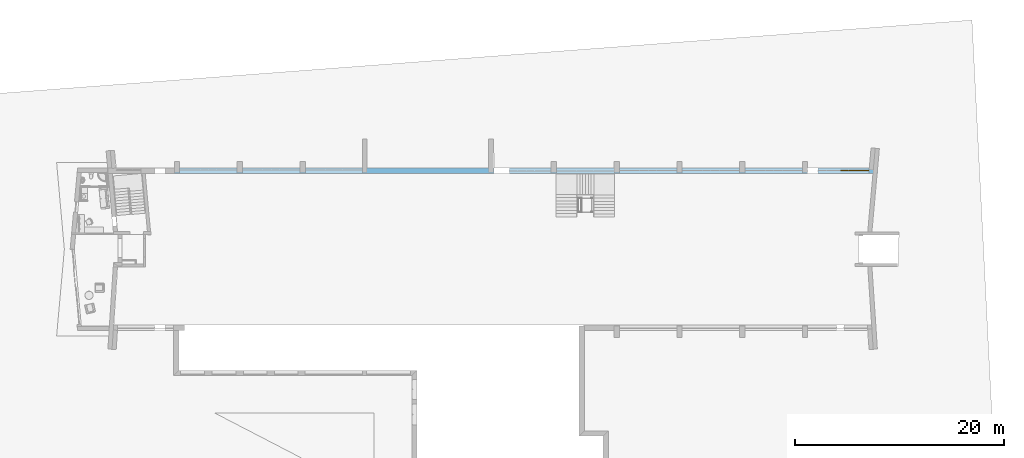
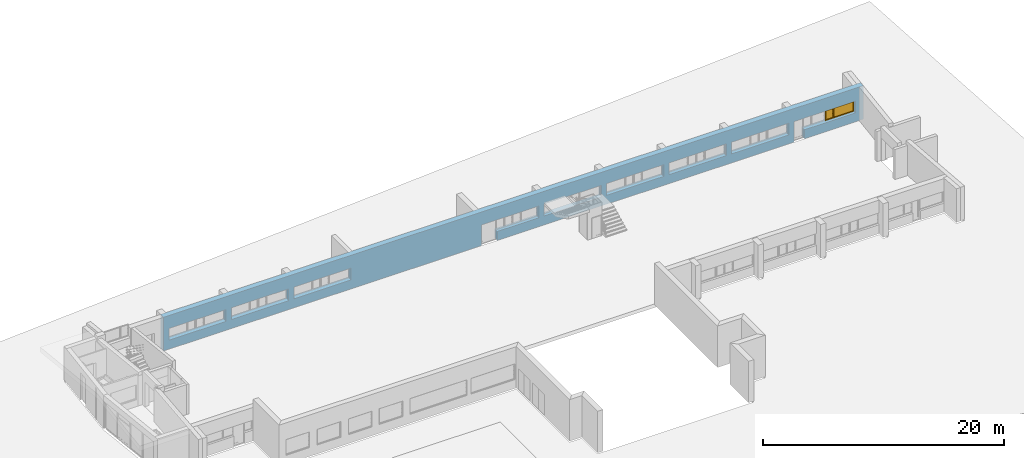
# One storey, part 9 of 36: 1 window, 20 openings, plus 1 element that does not belong to this part.
"""IFC2X3 building model written with IfcOpenShell, lengths in millimetres."""

import ifcopenshell
import ifcopenshell.guid

model = None  # the IFC model being written
_history = None  # IfcOwnerHistory: only IFC2X3 demands one
_inside = {}  # id of a spatial element -> (the spatial element, [elements in it])
_under = {}  # id of a project, library or spatial element -> (it, [spatial elements below it])
_declared = {}  # id of a project -> (the project, [libraries it declares])
_typed = {}  # id of a type object -> (the type object, [elements of that type])
_made_of = {}  # id of a material, layer set ... -> (it, [elements and type objects made of it])


def new_model(schema):
    """Start an empty IFC model of exactly this schema.

    Asked for "IFC4X3", IfcOpenShell would pick the latest addendum, in which some entities
    have other attributes; the version numbers below select the first issue.
    IFC2X3 requires an IfcOwnerHistory on every rooted entity: one is made here for all.
    """
    global model, _history
    if schema == "IFC4X3":
        model = ifcopenshell.file(schema_version=(4, 3, 0, 0))
    else:
        model = ifcopenshell.file(schema=schema)
    _inside.clear()
    _under.clear()
    _declared.clear()
    _typed.clear()
    _made_of.clear()
    _history = None
    if model.schema == "IFC2X3":
        org = make("IfcOrganization", Name="unknown")
        user = make(
            "IfcPersonAndOrganization",
            ThePerson=make("IfcPerson", FamilyName="unknown"),
            TheOrganization=org,
        )
        app = make(
            "IfcApplication",
            ApplicationDeveloper=org,
            Version="unknown",
            ApplicationFullName="unknown",
            ApplicationIdentifier="unknown",
        )
        _history = make(
            "IfcOwnerHistory",
            OwningUser=user,
            OwningApplication=app,
            ChangeAction="ADDED",
            CreationDate=0,
        )
    return model


def make(cls, **values):
    """One entity of the class cls with the attributes given. An attribute that is None is left unset."""
    return model.create_entity(
        cls, **{name: value for name, value in values.items() if value is not None}
    )


def entity(cls, *values):
    """Any entity or typed value of the class cls, its attributes in the order of the schema. None: left unset."""
    e = model.create_entity(cls)
    for i, value in enumerate(values):
        if value is not None:
            e[i] = value
    return e


def rooted(cls, **values):
    """An entity with a GlobalId (a new one), such as an element, a storey or a relation."""
    return make(cls, GlobalId=ifcopenshell.guid.new(), OwnerHistory=_history, **values)


def si_unit(unit_type, name, prefix=None):
    """IfcSIUnit, for example si_unit("LENGTHUNIT", "METRE", prefix="MILLI")."""
    return make("IfcSIUnit", UnitType=unit_type, Prefix=prefix, Name=name)


def converted_unit(unit_type, name, factor, base, dimensions=None, offset=None):
    """IfcConversionBasedUnit, such as the inch: factor (a typed value) times the base unit."""
    return make(
        "IfcConversionBasedUnit"
        if offset is None
        else "IfcConversionBasedUnitWithOffset",
        ConversionOffset=offset,
        Dimensions=None
        if dimensions is None
        else entity("IfcDimensionalExponents", *dimensions),
        UnitType=unit_type,
        Name=name,
        ConversionFactor=make(
            "IfcMeasureWithUnit", ValueComponent=factor, UnitComponent=base
        ),
    )


def money_unit(currency):
    """IfcMonetaryUnit."""
    return make("IfcMonetaryUnit", Currency=currency)


def assignment(units):
    """IfcUnitAssignment: the units of a project."""
    return None if units is None else make("IfcUnitAssignment", Units=units)


def point(xyz):
    """IfcCartesianPoint."""
    return None if xyz is None else make("IfcCartesianPoint", Coordinates=xyz)


def direction(xyz):
    """IfcDirection."""
    return None if xyz is None else make("IfcDirection", DirectionRatios=xyz)


def frame(location, z_axis=None, x_axis=None):
    """IfcAxis2Placement3D, a coordinate frame: its origin and axes. An axis left out is left unset."""
    return make(
        "IfcAxis2Placement3D",
        Location=point(location),
        Axis=direction(z_axis),
        RefDirection=direction(x_axis),
    )


def origin_with_axes():
    """The frame at (0, 0, 0) with the z axis (0, 0, 1) and the x axis (1, 0, 0) written out."""
    return frame((0.0, 0.0, 0.0), z_axis=(0.0, 0.0, 1.0), x_axis=(1.0, 0.0, 0.0))


def place(relative_to, where):
    """IfcLocalPlacement: puts the frame where relative to a parent placement (None: the world)."""
    return make(
        "IfcLocalPlacement", PlacementRelTo=relative_to, RelativePlacement=where
    )


def context(
    kind, dimensions, precision=None, world=None, true_north=None, identifier=None
):
    """IfcGeometricRepresentationContext, for example the 3D "Model" context."""
    return make(
        "IfcGeometricRepresentationContext",
        ContextIdentifier=identifier,
        ContextType=kind,
        CoordinateSpaceDimension=dimensions,
        Precision=precision,
        WorldCoordinateSystem=world,
        TrueNorth=true_north,
    )


def subcontext(parent, identifier, kind, view, scale=None):
    """IfcGeometricRepresentationSubContext, for example "Body" below "Model"."""
    return make(
        "IfcGeometricRepresentationSubContext",
        ContextIdentifier=identifier,
        ContextType=kind,
        ParentContext=parent,
        TargetScale=scale,
        TargetView=view,
    )


def project(units=None, contexts=None):
    """IfcProject with its units and contexts."""
    return rooted(
        "IfcProject",
        Name="project",
        RepresentationContexts=contexts,
        UnitsInContext=assignment(units),
    )


def spatial(cls, under=None, at=None, **own):
    """A site, building, storey or space (cls), placed at a placement, below another one or the project."""
    s = rooted(cls, ObjectPlacement=at, **own)
    if under is not None:
        _under.setdefault(under.id(), (under, []))[1].append(s)
    return s


def polyline(points):
    """IfcPolyline through the points."""
    return make("IfcPolyline", Points=[point(p) for p in points])


def outline(outer, holes=None, kind="AREA"):
    """IfcArbitraryClosedProfileDef: a profile drawn as a closed curve; with holes, ...WithVoids."""
    if holes is None:
        return make("IfcArbitraryClosedProfileDef", ProfileType=kind, OuterCurve=outer)
    return make(
        "IfcArbitraryProfileDefWithVoids",
        ProfileType=kind,
        OuterCurve=outer,
        InnerCurves=holes,
    )


def extrude(swept, where, along, depth):
    """IfcExtrudedAreaSolid: the profile swept, set in the frame where, extruded along a direction by depth."""
    return make(
        "IfcExtrudedAreaSolid",
        SweptArea=swept,
        Position=where,
        ExtrudedDirection=direction(along),
        Depth=depth,
    )


def faces_of(points, faces, orient=None, outer=None):
    """IfcFace entities. A face is a list of loops; a loop is a list of indices into points, from 0.

    orient and outer hold one flag for each loop. By default every Orientation is true, the
    first loop of a face is its IfcFaceOuterBound and the others are IfcFaceBound.
    """
    made = []
    for i, loops in enumerate(faces):
        bounds = []
        for j, loop in enumerate(loops):
            is_outer = j == 0 if outer is None else outer[i][j]
            bounds.append(
                make(
                    "IfcFaceOuterBound" if is_outer else "IfcFaceBound",
                    Bound=make("IfcPolyLoop", Polygon=[points[k] for k in loop]),
                    Orientation=True if orient is None else orient[i][j],
                )
            )
        made.append(make("IfcFace", Bounds=bounds))
    return made


def open_shell(faces, orient=None, outer=None):
    """The faces of one IfcOpenShell. surface_model builds it on its shared points."""
    return ("IfcOpenShell", faces, orient, outer)


def faceted_brep(points, faces, orient=None, outer=None, voids=None):
    """IfcFacetedBrep: a solid bounded by flat faces; with voids (closed shells), ...WithVoids."""
    shared = [point(p) for p in points]
    hull = make("IfcClosedShell", CfsFaces=faces_of(shared, faces, orient, outer))
    if voids is None:
        return make("IfcFacetedBrep", Outer=hull)
    return make(
        "IfcFacetedBrepWithVoids",
        Outer=hull,
        Voids=[
            make(cls, CfsFaces=faces_of(shared, fs, o, b)) for cls, fs, o, b in voids
        ],
    )


def surface_model(cls, points, shells):
    """IfcFaceBasedSurfaceModel or IfcShellBasedSurfaceModel (cls): surfaces that need not close."""
    shared = [point(p) for p in points]
    made = [make(c, CfsFaces=faces_of(shared, fs, o, b)) for c, fs, o, b in shells]
    if cls == "IfcFaceBasedSurfaceModel":
        return make(cls, FbsmFaces=made)
    return make(cls, SbsmBoundary=made)


def shape(context_of_items, identifier, shape_type, items):
    """IfcShapeRepresentation: the items that make up one representation, for example the "Body"."""
    return make(
        "IfcShapeRepresentation",
        ContextOfItems=context_of_items,
        RepresentationIdentifier=identifier,
        RepresentationType=shape_type,
        Items=items,
    )


def source(mapping_origin, context_of_items, identifier, shape_type, items):
    """IfcRepresentationMap: a shape defined once, which mapped items show again and again."""
    return make(
        "IfcRepresentationMap",
        MappingOrigin=mapping_origin,
        MappedRepresentation=shape(context_of_items, identifier, shape_type, items),
    )


def transform(
    local_origin,
    x_axis=None,
    y_axis=None,
    z_axis=None,
    scale=None,
    scale2=None,
    scale3=None,
    uniform=True,
):
    """IfcCartesianTransformationOperator3D, or its non-uniform kind. x_axis, y_axis, z_axis: its Axis1, 2, 3."""
    if uniform:
        return make(
            "IfcCartesianTransformationOperator3D",
            Axis1=direction(x_axis),
            Axis2=direction(y_axis),
            LocalOrigin=point(local_origin),
            Scale=scale,
            Axis3=direction(z_axis),
        )
    return make(
        "IfcCartesianTransformationOperator3DnonUniform",
        Axis1=direction(x_axis),
        Axis2=direction(y_axis),
        LocalOrigin=point(local_origin),
        Scale=scale,
        Axis3=direction(z_axis),
        Scale2=scale2,
        Scale3=scale3,
    )


def mapped(mapping_source, mapping_target):
    """IfcMappedItem: shows the shape of a source again, moved by a transform."""
    return make(
        "IfcMappedItem", MappingSource=mapping_source, MappingTarget=mapping_target
    )


def material(Name=None, Category=None):
    """IfcMaterial."""
    return make("IfcMaterial", Name=Name, Category=Category)


def material_list(materials):
    """IfcMaterialList."""
    return make("IfcMaterialList", Materials=materials)


def layer(
    of_material, thickness, ventilated=None, Name=None, Category=None, Priority=None
):
    """IfcMaterialLayer: one layer of a wall or slab, of a material (None: an air gap)."""
    return make(
        "IfcMaterialLayer",
        Material=of_material,
        LayerThickness=thickness,
        IsVentilated=ventilated,
        Name=Name,
        Category=Category,
        Priority=Priority,
    )


def layer_set(layers, Name=None):
    """IfcMaterialLayerSet."""
    return make("IfcMaterialLayerSet", MaterialLayers=layers, LayerSetName=Name)


def layer_usage(for_layer_set, set_direction, sense, offset, extent=None):
    """IfcMaterialLayerSetUsage: how a layer set lies in its element."""
    return make(
        "IfcMaterialLayerSetUsage",
        ForLayerSet=for_layer_set,
        LayerSetDirection=set_direction,
        DirectionSense=sense,
        OffsetFromReferenceLine=offset,
        ReferenceExtent=extent,
    )


def made_of(thing, what):
    """Note that an element or type object is made of a material, layer set ...; save() writes the relation."""
    if what is not None:
        _made_of.setdefault(what.id(), (what, []))[1].append(thing)
    return thing


def type_object(cls, material=None, **own):
    """A type object (cls), such as IfcWallType, which elements share."""
    return made_of(rooted(cls, **own), material)


def element(
    cls,
    number,
    at=None,
    inside=None,
    cuts=None,
    type_object=None,
    material=None,
    context=None,
    identifier="Body",
    shape_type=None,
    held_by="IfcProductDefinitionShape",
    body=None,
    shapes=None,
    **own,
):
    """One element of the class cls, such as IfcWall. Its Tag is "e" and its number.

    at: its placement. inside: the storey or other place that contains it. cuts: it is an
    opening in that element (IfcRelVoidsElement). A single representation is given by context,
    identifier, shape_type and body (its items); several are given by shapes. held_by: the class
    of the entity that holds the representations. save() writes the other relations.
    """
    e = rooted(cls, Tag="e%d" % number, ObjectPlacement=at, **own)
    if body is not None:
        shapes = [shape(context, identifier, shape_type, body)]
    if shapes is not None:
        e.Representation = make(held_by, Representations=shapes)
    if inside is not None:
        _inside.setdefault(inside.id(), (inside, []))[1].append(e)
    if cuts is not None:
        rooted(
            "IfcRelVoidsElement", RelatingBuildingElement=cuts, RelatedOpeningElement=e
        )
    if type_object is not None:
        _typed.setdefault(type_object.id(), (type_object, []))[1].append(e)
    return made_of(e, material)


def fill(opening, filler):
    """IfcRelFillsElement: the door or window that sits in an opening."""
    return rooted(
        "IfcRelFillsElement",
        RelatingOpeningElement=opening,
        RelatedBuildingElement=filler,
    )


def aggregate(whole, parts):
    """IfcRelAggregates: a whole, such as a stair, and the parts it consists of."""
    return rooted("IfcRelAggregates", RelatingObject=whole, RelatedObjects=parts)


def save(model, path):
    """Write the relations noted so far, then the file.

    IfcRelAggregates (storeys below a building ...), IfcRelContainedInSpatialStructure (elements
    in a storey), IfcRelDefinesByType, IfcRelAssociatesMaterial and IfcRelDeclares: one each for
    every whole, place, type object, material and project.
    """
    for whole, parts in _under.values():
        aggregate(whole, parts)
    for where, things in _inside.values():
        rooted(
            "IfcRelContainedInSpatialStructure",
            RelatedElements=things,
            RelatingStructure=where,
        )
    for kind, things in _typed.values():
        rooted("IfcRelDefinesByType", RelatedObjects=things, RelatingType=kind)
    for what, things in _made_of.values():
        rooted("IfcRelAssociatesMaterial", RelatedObjects=things, RelatingMaterial=what)
    for by, libraries in _declared.values():
        rooted("IfcRelDeclares", RelatingContext=by, RelatedDefinitions=libraries)
    model.write(path)


model = new_model("IFC2X3")

# Units and contexts
model_context = context("Model", 3, precision=1e-05, world=origin_with_axes(), true_north=direction((0.0, 1.0)))
body_context = subcontext(model_context, "Body", "Model", "MODEL_VIEW")
ifc_project = project(units=[si_unit("LENGTHUNIT", "METRE", prefix="MILLI"), si_unit("AREAUNIT", "SQUARE_METRE"), si_unit("VOLUMEUNIT", "CUBIC_METRE"), converted_unit("PLANEANGLEUNIT", "DEGREE", entity("IfcPlaneAngleMeasure", 0.0174532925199), si_unit("PLANEANGLEUNIT", "RADIAN"), dimensions=[0, 0, 0, 0, 0, 0, 0]), si_unit("SOLIDANGLEUNIT", "STERADIAN"), money_unit("USD"), converted_unit("TIMEUNIT", "Year", entity("IfcTimeMeasure", 31556926.0), si_unit("TIMEUNIT", "SECOND"), dimensions=[0, 0, 0, 0, 0, 0, 0]), si_unit("MASSUNIT", "GRAM"), si_unit("THERMODYNAMICTEMPERATUREUNIT", "DEGREE_CELSIUS"), si_unit("LUMINOUSINTENSITYUNIT", "LUMEN")], contexts=[model_context])

# Site, building, storey
site_placement = place(None, origin_with_axes())
site = spatial("IfcSite", under=ifc_project, at=site_placement, Name="Site", CompositionType="ELEMENT")
building_placement = place(site_placement, origin_with_axes())
building = spatial("IfcBuilding", under=site, at=building_placement, Name="Building", CompositionType="ELEMENT")
storey_placement = place(building_placement, frame((0.0, 0.0, -3400.0), z_axis=(0.0, 0.0, 1.0), x_axis=(1.0, 0.0, 0.0)))
storey = spatial("IfcBuildingStorey", under=building, at=storey_placement, Name="1KORRUS", CompositionType="ELEMENT", Elevation=-3400.0)

# Wall, openings, window
ifc_material_1 = material(Name="Olemasolevad seinad tellis, uus viimistlus")
ifc_layer = layer(ifc_material_1, 500.0, ventilated="UNKNOWN")
ifc_layer_set = layer_set([ifc_layer], Name="Olemasolevad seinad tellis, uus viimistlus 500")
ifc_layer_usage = layer_usage(ifc_layer_set, "AXIS2", "POSITIVE", -100.0)
wall_type = type_object("IfcWallType", Name="Olemasolevad seinad tellis, uus viimistlus 500", PredefinedType="NOTDEFINED")
wall_placement = place(storey_placement, frame((-48393.8274049, -5039.6041088, 0.0), z_axis=(0.0, 0.0, 1.0), x_axis=(1.0, 0.0, 0.0)))
wall = element("IfcWallStandardCase", 1, at=wall_placement, inside=storey, type_object=wall_type, material=ifc_layer_usage, Name="VS1", ObjectType="VS1", context=body_context, shape_type="SweptSolid", body=[
    extrude(outline(polyline([(0.0, -100.0), (67149.8194303, -100.0), (67149.8194303, 400.0), (0.0, 400.0), (0.0, -100.0)])), origin_with_axes(), (0.0, 0.0, 1.0), 3400.0),
])
opening_1_placement = place(wall_placement, frame((1878.53070154, 0.0, 900.0), z_axis=(0.0, 0.0, 1.0), x_axis=(1.0, 0.0, 0.0)))
element("IfcOpeningElement", 2, at=opening_1_placement, cuts=wall, Name="Olemasolevad aknad jäävad", context=body_context, shape_type="SweptSolid", body=[
    extrude(outline(polyline([(-1375.0, 1200.0), (-1375.0, 0.0), (1375.0, 0.0), (1375.0, 1200.0), (-1375.0, 1200.0)])), frame((0.0, 250.0, 0.0), z_axis=(0.0, -1.0, 0.0), x_axis=(1.0, 0.0, 0.0)), (0.0, 0.0, 1.0), 850.0),
    extrude(outline(polyline([(-1375.0, 0.0), (-1375.0, -1200.0), (1375.0, -1200.0), (1375.0, 0.0), (-1375.0, 0.0)])), frame((0.0, 250.0, 0.0), z_axis=(0.0, 1.0, 0.0), x_axis=(1.0, 0.0, 0.0)), (0.0, 0.0, 1.0), 650.0),
])
opening_2_placement = place(wall_placement, frame((7878.53070154, 0.0, 900.0), z_axis=(0.0, 0.0, 1.0), x_axis=(1.0, 0.0, 0.0)))
element("IfcOpeningElement", 3, at=opening_2_placement, cuts=wall, Name="Olemasolevad aknad jäävad", context=body_context, shape_type="SweptSolid", body=[
    extrude(outline(polyline([(-1375.0, 1200.0), (-1375.0, 0.0), (1375.0, 0.0), (1375.0, 1200.0), (-1375.0, 1200.0)])), frame((0.0, 250.0, 0.0), z_axis=(0.0, -1.0, 0.0), x_axis=(1.0, 0.0, 0.0)), (0.0, 0.0, 1.0), 850.0),
    extrude(outline(polyline([(-1375.0, 0.0), (-1375.0, -1200.0), (1375.0, -1200.0), (1375.0, 0.0), (-1375.0, 0.0)])), frame((0.0, 250.0, 0.0), z_axis=(0.0, 1.0, 0.0), x_axis=(1.0, 0.0, 0.0)), (0.0, 0.0, 1.0), 650.0),
])
opening_3_placement = place(wall_placement, frame((13878.5307015, 0.0, 900.0), z_axis=(0.0, 0.0, 1.0), x_axis=(1.0, 0.0, 0.0)))
element("IfcOpeningElement", 4, at=opening_3_placement, cuts=wall, Name="Olemasolevad aknad jäävad", context=body_context, shape_type="SweptSolid", body=[
    extrude(outline(polyline([(-1375.0, 1200.0), (-1375.0, 0.0), (1375.0, 0.0), (1375.0, 1200.0), (-1375.0, 1200.0)])), frame((0.0, 250.0, 0.0), z_axis=(0.0, -1.0, 0.0), x_axis=(1.0, 0.0, 0.0)), (0.0, 0.0, 1.0), 850.0),
    extrude(outline(polyline([(-1375.0, 0.0), (-1375.0, -1200.0), (1375.0, -1200.0), (1375.0, 0.0), (-1375.0, 0.0)])), frame((0.0, 250.0, 0.0), z_axis=(0.0, 1.0, 0.0), x_axis=(1.0, 0.0, 0.0)), (0.0, 0.0, 1.0), 650.0),
])
opening_4_placement = place(wall_placement, frame((4628.53070154, 0.0, 900.0), z_axis=(0.0, 0.0, 1.0), x_axis=(1.0, 0.0, 0.0)))
element("IfcOpeningElement", 5, at=opening_4_placement, cuts=wall, Name="Olemasolevad aknad jäävad", context=body_context, shape_type="SweptSolid", body=[
    extrude(outline(polyline([(1375.0, 1200.0), (-1375.0, 1200.0), (-1375.0, 0.0), (1375.0, 0.0), (1375.0, 1200.0)])), frame((0.0, 250.0, 0.0), z_axis=(0.0, -1.0, 0.0), x_axis=(1.0, 0.0, 0.0)), (0.0, 0.0, 1.0), 850.0),
    extrude(outline(polyline([(1375.0, 0.0), (-1375.0, 0.0), (-1375.0, -1200.0), (1375.0, -1200.0), (1375.0, 0.0)])), frame((0.0, 250.0, 0.0), z_axis=(0.0, 1.0, 0.0), x_axis=(1.0, 0.0, 0.0)), (0.0, 0.0, 1.0), 650.0),
])
opening_5_placement = place(wall_placement, frame((10628.5307015, 0.0, 900.0), z_axis=(0.0, 0.0, 1.0), x_axis=(1.0, 0.0, 0.0)))
element("IfcOpeningElement", 6, at=opening_5_placement, cuts=wall, Name="Olemasolevad aknad jäävad", context=body_context, shape_type="SweptSolid", body=[
    extrude(outline(polyline([(1375.0, 1200.0), (-1375.0, 1200.0), (-1375.0, 0.0), (1375.0, 0.0), (1375.0, 1200.0)])), frame((0.0, 250.0, 0.0), z_axis=(0.0, -1.0, 0.0), x_axis=(1.0, 0.0, 0.0)), (0.0, 0.0, 1.0), 850.0),
    extrude(outline(polyline([(1375.0, 0.0), (-1375.0, 0.0), (-1375.0, -1200.0), (1375.0, -1200.0), (1375.0, 0.0)])), frame((0.0, 250.0, 0.0), z_axis=(0.0, 1.0, 0.0), x_axis=(1.0, 0.0, 0.0)), (0.0, 0.0, 1.0), 650.0),
])
opening_6_placement = place(wall_placement, frame((16616.9651775, 0.0, 900.0), z_axis=(0.0, 0.0, 1.0), x_axis=(1.0, 0.0, 0.0)))
element("IfcOpeningElement", 7, at=opening_6_placement, cuts=wall, Name="Olemasolevad aknad jäävad", context=body_context, shape_type="SweptSolid", body=[
    extrude(outline(polyline([(1375.0, 1200.0), (-1375.0, 1200.0), (-1375.0, 0.0), (1375.0, 0.0), (1375.0, 1200.0)])), frame((0.0, 250.0, 0.0), z_axis=(0.0, -1.0, 0.0), x_axis=(1.0, 0.0, 0.0)), (0.0, 0.0, 1.0), 850.0),
    extrude(outline(polyline([(1375.0, 0.0), (-1375.0, 0.0), (-1375.0, -1200.0), (1375.0, -1200.0), (1375.0, 0.0)])), frame((0.0, 250.0, 0.0), z_axis=(0.0, 1.0, 0.0), x_axis=(1.0, 0.0, 0.0)), (0.0, 0.0, 1.0), 650.0),
])
opening_7_placement = place(wall_placement, frame((34803.5307015, 0.0, 900.0), z_axis=(0.0, 0.0, 1.0), x_axis=(1.0, 0.0, 0.0)))
element("IfcOpeningElement", 8, at=opening_7_placement, cuts=wall, Name="Olemasolevad aknad jäävad", context=body_context, shape_type="SweptSolid", body=[
    extrude(outline(polyline([(1200.0, 0.0), (-1200.0, 0.0), (-1200.0, -1200.0), (1200.0, -1200.0), (1200.0, 0.0)])), frame((0.0, 100.0, 0.0), z_axis=(0.0, 1.0, 0.0), x_axis=(1.0, 0.0, 0.0)), (0.0, 0.0, 1.0), 800.0),
    extrude(outline(polyline([(1200.0, 1200.0), (-1200.0, 1200.0), (-1200.0, 0.0), (1200.0, 0.0), (1200.0, 1200.0)])), frame((0.0, 100.0, 0.0), z_axis=(0.0, -1.0, 0.0), x_axis=(1.0, 0.0, 0.0)), (0.0, 0.0, 1.0), 700.0),
])
opening_8_placement = place(wall_placement, frame((40625.1633636, 0.0, 900.0), z_axis=(0.0, 0.0, 1.0), x_axis=(1.0, 0.0, 0.0)))
element("IfcOpeningElement", 9, at=opening_8_placement, cuts=wall, Name="Olemasolevad aknad jäävad", context=body_context, shape_type="SweptSolid", body=[
    extrude(outline(polyline([(1400.0, 0.0), (-1400.0, 0.0), (-1400.0, -1200.0), (1400.0, -1200.0), (1400.0, 0.0)])), frame((0.0, 100.0, 0.0), z_axis=(0.0, 1.0, 0.0), x_axis=(1.0, 0.0, 0.0)), (0.0, 0.0, 1.0), 800.0),
    extrude(outline(polyline([(1400.0, 1200.0), (-1400.0, 1200.0), (-1400.0, 0.0), (1400.0, 0.0), (1400.0, 1200.0)])), frame((0.0, 100.0, 0.0), z_axis=(0.0, -1.0, 0.0), x_axis=(1.0, 0.0, 0.0)), (0.0, 0.0, 1.0), 700.0),
])
opening_9_placement = place(wall_placement, frame((37871.3218818, 0.0, 900.0), z_axis=(0.0, 0.0, 1.0), x_axis=(1.0, 0.0, 0.0)))
element("IfcOpeningElement", 10, at=opening_9_placement, cuts=wall, Name="Olemasolevad aknad jäävad", context=body_context, shape_type="SweptSolid", body=[
    extrude(outline(polyline([(-1367.791, 0.0), (-1367.791, -1200.0), (1367.791, -1200.0), (1367.791, 0.0), (-1367.791, 0.0)])), frame((0.0, 150.0, 0.0), z_axis=(0.0, 1.0, 0.0), x_axis=(1.0, 0.0, 0.0)), (0.0, 0.0, 1.0), 750.0),
    extrude(outline(polyline([(-1367.791, 1200.0), (-1367.791, 0.0), (1367.791, 0.0), (1367.791, 1200.0), (-1367.791, 1200.0)])), frame((0.0, 150.0, 0.0), z_axis=(0.0, -1.0, 0.0), x_axis=(1.0, 0.0, 0.0)), (0.0, 0.0, 1.0), 750.0),
])
opening_10_placement = place(wall_placement, frame((46628.5307015, 0.0, 900.0), z_axis=(0.0, 0.0, 1.0), x_axis=(1.0, 0.0, 0.0)))
element("IfcOpeningElement", 11, at=opening_10_placement, cuts=wall, Name="Olemasolevad aknad jäävad", context=body_context, shape_type="SweptSolid", body=[
    extrude(outline(polyline([(1375.0, 1200.0), (-1375.0, 1200.0), (-1375.0, 0.0), (1375.0, 0.0), (1375.0, 1200.0)])), frame((0.0, 150.0, 0.0), z_axis=(0.0, -1.0, 0.0), x_axis=(1.0, 0.0, 0.0)), (0.0, 0.0, 1.0), 750.0),
    extrude(outline(polyline([(1375.0, 0.0), (-1375.0, 0.0), (-1375.0, -1200.0), (1375.0, -1200.0), (1375.0, 0.0)])), frame((0.0, 150.0, 0.0), z_axis=(0.0, 1.0, 0.0), x_axis=(1.0, 0.0, 0.0)), (0.0, 0.0, 1.0), 750.0),
])
opening_11_placement = place(wall_placement, frame((43878.5307015, 0.0, 900.0), z_axis=(0.0, 0.0, 1.0), x_axis=(1.0, 0.0, 0.0)))
element("IfcOpeningElement", 12, at=opening_11_placement, cuts=wall, Name="Olemasolevad aknad jäävad", context=body_context, shape_type="SweptSolid", body=[
    extrude(outline(polyline([(-1375.0, 1200.0), (-1375.0, 0.0), (1375.0, 0.0), (1375.0, 1200.0), (-1375.0, 1200.0)])), frame((0.0, 200.0, 0.0), z_axis=(0.0, -1.0, 0.0), x_axis=(1.0, 0.0, 0.0)), (0.0, 0.0, 1.0), 800.0),
    extrude(outline(polyline([(-1375.0, 0.0), (-1375.0, -1200.0), (1375.0, -1200.0), (1375.0, 0.0), (-1375.0, 0.0)])), frame((0.0, 200.0, 0.0), z_axis=(0.0, 1.0, 0.0), x_axis=(1.0, 0.0, 0.0)), (0.0, 0.0, 1.0), 700.0),
])
opening_12_placement = place(wall_placement, frame((52635.3834465, 0.0, 900.0), z_axis=(0.0, 0.0, 1.0), x_axis=(1.0, 0.0, 0.0)))
element("IfcOpeningElement", 13, at=opening_12_placement, cuts=wall, Name="Olemasolevad aknad jäävad", context=body_context, shape_type="SweptSolid", body=[
    extrude(outline(polyline([(1376.809, 1200.0), (-1376.809, 1200.0), (-1376.809, 0.0), (1376.809, 0.0), (1376.809, 1200.0)])), frame((0.0, 150.0, 0.0), z_axis=(0.0, -1.0, 0.0), x_axis=(1.0, 0.0, 0.0)), (0.0, 0.0, 1.0), 750.0),
    extrude(outline(polyline([(1376.809, 0.0), (-1376.809, 0.0), (-1376.809, -1200.0), (1376.809, -1200.0), (1376.809, 0.0)])), frame((0.0, 150.0, 0.0), z_axis=(0.0, 1.0, 0.0), x_axis=(1.0, 0.0, 0.0)), (0.0, 0.0, 1.0), 750.0),
])
opening_13_placement = place(wall_placement, frame((49883.9987013, 0.0, 900.0), z_axis=(0.0, 0.0, 1.0), x_axis=(1.0, 0.0, 0.0)))
element("IfcOpeningElement", 14, at=opening_13_placement, cuts=wall, Name="Olemasolevad aknad jäävad", context=body_context, shape_type="SweptSolid", body=[
    extrude(outline(polyline([(-1375.0, 1200.0), (-1375.0, 0.0), (1375.0, 0.0), (1375.0, 1200.0), (-1375.0, 1200.0)])), frame((0.0, 200.0, 0.0), z_axis=(0.0, -1.0, 0.0), x_axis=(1.0, 0.0, 0.0)), (0.0, 0.0, 1.0), 800.0),
    extrude(outline(polyline([(-1375.0, 0.0), (-1375.0, -1200.0), (1375.0, -1200.0), (1375.0, 0.0), (-1375.0, 0.0)])), frame((0.0, 200.0, 0.0), z_axis=(0.0, 1.0, 0.0), x_axis=(1.0, 0.0, 0.0)), (0.0, 0.0, 1.0), 700.0),
])
opening_14_placement = place(wall_placement, frame((58631.8843372, 0.0, 900.0), z_axis=(0.0, 0.0, 1.0), x_axis=(1.0, 0.0, 0.0)))
element("IfcOpeningElement", 15, at=opening_14_placement, cuts=wall, Name="Olemasolevad aknad jäävad", context=body_context, shape_type="SweptSolid", body=[
    extrude(outline(polyline([(1371.646, 1200.0), (-1371.646, 1200.0), (-1371.646, 0.0), (1371.646, 0.0), (1371.646, 1200.0)])), frame((0.0, 150.0, 0.0), z_axis=(0.0, -1.0, 0.0), x_axis=(1.0, 0.0, 0.0)), (0.0, 0.0, 1.0), 750.0),
    extrude(outline(polyline([(1371.646, 0.0), (-1371.646, 0.0), (-1371.646, -1200.0), (1371.646, -1200.0), (1371.646, 0.0)])), frame((0.0, 150.0, 0.0), z_axis=(0.0, 1.0, 0.0), x_axis=(1.0, 0.0, 0.0)), (0.0, 0.0, 1.0), 750.0),
])
opening_15_placement = place(wall_placement, frame((55886.6217615, 0.0, 900.0), z_axis=(0.0, 0.0, 1.0), x_axis=(1.0, 0.0, 0.0)))
element("IfcOpeningElement", 16, at=opening_15_placement, cuts=wall, Name="Olemasolevad aknad jäävad", context=body_context, shape_type="SweptSolid", body=[
    extrude(outline(polyline([(-1375.0, 1200.0), (-1375.0, 0.0), (1375.0, 0.0), (1375.0, 1200.0), (-1375.0, 1200.0)])), frame((0.0, 200.0, 0.0), z_axis=(0.0, -1.0, 0.0), x_axis=(1.0, 0.0, 0.0)), (0.0, 0.0, 1.0), 800.0),
    extrude(outline(polyline([(-1375.0, 0.0), (-1375.0, -1200.0), (1375.0, -1200.0), (1375.0, 0.0), (-1375.0, 0.0)])), frame((0.0, 200.0, 0.0), z_axis=(0.0, 1.0, 0.0), x_axis=(1.0, 0.0, 0.0)), (0.0, 0.0, 1.0), 700.0),
])
opening_16_placement = place(wall_placement, frame((64995.2517085, 0.0, 900.0), z_axis=(0.0, 0.0, 1.0), x_axis=(1.0, 0.0, 0.0)))
opening_16 = element("IfcOpeningElement", 17, at=opening_16_placement, cuts=wall, Name="Olemasolevad aknad jäävad", context=body_context, shape_type="SweptSolid", body=[
    extrude(outline(polyline([(1375.0, 1200.0), (-1375.0, 1200.0), (-1375.0, 0.0), (1375.0, 0.0), (1375.0, 1200.0)])), frame((0.0, 150.0, 0.0), z_axis=(0.0, -1.0, 0.0), x_axis=(1.0, 0.0, 0.0)), (0.0, 0.0, 1.0), 750.0),
    extrude(outline(polyline([(1375.0, 0.0), (-1375.0, 0.0), (-1375.0, -1200.0), (1375.0, -1200.0), (1375.0, 0.0)])), frame((0.0, 150.0, 0.0), z_axis=(0.0, 1.0, 0.0), x_axis=(1.0, 0.0, 0.0)), (0.0, 0.0, 1.0), 750.0),
])
opening_17_placement = place(wall_placement, frame((32810.8244307, 0.0, 900.0), z_axis=(0.0, 0.0, 1.0), x_axis=(1.0, 0.0, 0.0)))
element("IfcOpeningElement", 18, at=opening_17_placement, cuts=wall, Name="Olemasolevad aknad jäävad", context=body_context, shape_type="SweptSolid", body=[
    extrude(outline(polyline([(792.706, 0.0), (-792.706, 0.0), (-792.706, -1200.0), (792.706, -1200.0), (792.706, 0.0)])), frame((0.0, 100.0, 0.0), z_axis=(0.0, 1.0, 0.0), x_axis=(1.0, 0.0, 0.0)), (0.0, 0.0, 1.0), 800.0),
    extrude(outline(polyline([(792.706, 1200.0), (-792.706, 1200.0), (-792.706, 0.0), (792.706, 0.0), (792.706, 1200.0)])), frame((0.0, 100.0, 0.0), z_axis=(0.0, -1.0, 0.0), x_axis=(1.0, 0.0, 0.0)), (0.0, 0.0, 1.0), 700.0),
])
opening_18_placement = place(wall_placement, frame((62561.891205, 0.0, 900.0), z_axis=(0.0, 0.0, 1.0), x_axis=(1.0, 0.0, 0.0)))
element("IfcOpeningElement", 19, at=opening_18_placement, cuts=wall, Name="Olemasolevad aknad jäävad", context=body_context, shape_type="SweptSolid", body=[
    extrude(outline(polyline([(1058.361, 1200.0), (-1058.361, 1200.0), (-1058.361, 0.0), (1058.361, 0.0), (1058.361, 1200.0)])), frame((0.0, 150.0, 0.0), z_axis=(0.0, -1.0, 0.0), x_axis=(1.0, 0.0, 0.0)), (0.0, 0.0, 1.0), 750.0),
    extrude(outline(polyline([(1058.361, 0.0), (-1058.361, 0.0), (-1058.361, -1200.0), (1058.361, -1200.0), (1058.361, 0.0)])), frame((0.0, 150.0, 0.0), z_axis=(0.0, 1.0, 0.0), x_axis=(1.0, 0.0, 0.0)), (0.0, 0.0, 1.0), 750.0),
])
opening_19_placement = place(wall_placement, frame((61003.5307015, 0.0, -4.66441168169), z_axis=(0.0, 0.0, 1.0), x_axis=(1.0, 0.0, 0.0)))
element("IfcOpeningElement", 20, at=opening_19_placement, cuts=wall, Name="ava", context=body_context, shape_type="SweptSolid", body=[
    extrude(outline(polyline([(-500.0, 2100.0), (-500.0, 0.0), (500.0, 0.0), (500.0, 2100.0), (-500.0, 2100.0)])), frame((0.0, 200.0, 0.0), z_axis=(0.0, 1.0, 0.0), x_axis=(-1.0, 0.0, 0.0)), (0.0, 0.0, -1.0), 800.0),
    extrude(outline(polyline([(-500.0, 0.0), (-500.0, -2100.0), (500.0, -2100.0), (500.0, 0.0), (-500.0, 0.0)])), frame((0.0, 200.0, 0.0), z_axis=(0.0, -1.0, 0.0), x_axis=(-1.0, 0.0, 0.0)), (0.0, 0.0, -1.0), 700.0),
])
opening_20_placement = place(wall_placement, frame((31268.1181599, 0.0, 0.0), z_axis=(0.0, 0.0, 1.0), x_axis=(1.0, 0.0, 0.0)))
element("IfcOpeningElement", 21, at=opening_20_placement, cuts=wall, Name="ava", context=body_context, shape_type="SweptSolid", body=[
    extrude(outline(polyline([(-750.0, 2100.0), (-750.0, 0.0), (750.0, 0.0), (750.0, 2100.0), (-750.0, 2100.0)])), frame((0.0, 200.0, 0.0), z_axis=(0.0, -1.0, 0.0), x_axis=(1.0, 0.0, 0.0)), (0.0, 0.0, 1.0), 800.0),
    extrude(outline(polyline([(-750.0, 0.0), (-750.0, -2100.0), (750.0, -2100.0), (750.0, 0.0), (-750.0, 0.0)])), frame((0.0, 200.0, 0.0), z_axis=(0.0, 1.0, 0.0), x_axis=(1.0, 0.0, 0.0)), (0.0, 0.0, 1.0), 700.0),
])
ifc_material_2 = material(Name="Background")
ifc_material_list = material_list([ifc_material_2])
window_style = type_object("IfcWindowStyle", Name="Double Window 19", ConstructionType="NOTDEFINED", OperationType="DOUBLE_PANEL_VERTICAL", ParameterTakesPrecedence=False, Sizeable=False)
shared_shape = source(origin_with_axes(), body_context, "Body", "SurfaceModel", [
    faceted_brep([(1350.0, -200.0, 1150.0), (1350.0, -225.0, 1150.0), (1325.0, -225.0, 1150.0), (1325.0, -250.0, 1150.0), (1375.0, -250.0, 1150.0), (1375.0, -200.0, 1150.0), (1350.0, -200.0, 50.0), (1350.0, -225.0, 50.0), (1325.0, -225.0, 50.0), (1325.0, -250.0, 50.0), (1375.0, -250.0, 50.0), (1375.0, -200.0, 50.0)], [[[0, 1, 2, 3, 4, 5]], [[1, 0, 6, 7]], [[8, 2, 1, 7]], [[2, 8, 9, 3]], [[4, 3, 9, 10]], [[5, 4, 10, 11]], [[6, 0, 5, 11]], [[7, 6, 11, 10, 9, 8]]]),
    faceted_brep([(-1325.0, -225.0, 1150.0), (-1350.0, -225.0, 1150.0), (-1350.0, -200.0, 1150.0), (-1375.0, -200.0, 1150.0), (-1375.0, -250.0, 1150.0), (-1325.0, -250.0, 1150.0), (-1325.0, -225.0, 50.0), (-1350.0, -225.0, 50.0), (-1350.0, -200.0, 50.0), (-1375.0, -200.0, 50.0), (-1375.0, -250.0, 50.0), (-1325.0, -250.0, 50.0)], [[[0, 1, 2, 3, 4, 5]], [[1, 0, 6, 7]], [[8, 2, 1, 7]], [[2, 8, 9, 3]], [[9, 10, 4, 3]], [[10, 11, 5, 4]], [[6, 0, 5, 11]], [[7, 6, 11, 10, 9, 8]]]),
    faceted_brep([(-525.0, -225.0, 1150.0), (-550.0, -225.0, 1150.0), (-550.0, -200.0, 1150.0), (-600.0, -200.0, 1150.0), (-600.0, -225.0, 1150.0), (-625.0, -225.0, 1150.0), (-625.0, -250.0, 1150.0), (-525.0, -250.0, 1150.0), (-525.0, -225.0, 50.0), (-550.0, -225.0, 50.0), (-550.0, -200.0, 50.0), (-600.0, -200.0, 50.0), (-600.0, -225.0, 50.0), (-625.0, -225.0, 50.0), (-625.0, -250.0, 50.0), (-525.0, -250.0, 50.0)], [[[0, 1, 2, 3, 4, 5, 6, 7]], [[1, 0, 8, 9]], [[10, 2, 1, 9]], [[2, 10, 11, 3]], [[4, 3, 11, 12]], [[13, 5, 4, 12]], [[5, 13, 14, 6]], [[14, 15, 7, 6]], [[8, 0, 7, 15]], [[9, 8, 15, 14, 13, 12, 11, 10]]]),
    faceted_brep([(-525.0, -225.0, 50.0), (-550.0, -225.0, 50.0), (-550.0, -200.0, 50.0), (-600.0, -200.0, 50.0), (-600.0, -225.0, 50.0), (-625.0, -225.0, 50.0), (-625.0, -250.0, 50.0), (-525.0, -250.0, 50.0), (1325.0, -225.0, 50.0), (1350.0, -225.0, 50.0), (1350.0, -225.0, 25.0), (-550.0, -225.0, 25.0), (-550.0, -200.0, 25.0), (1350.0, -200.0, 25.0), (1350.0, -200.0, 50.0), (1375.0, -200.0, 50.0), (1375.0, -200.0, 0.0), (-1375.0, -200.0, 0.0), (-1375.0, -200.0, 50.0), (-1350.0, -200.0, 50.0), (-1350.0, -200.0, 25.0), (-600.0, -200.0, 25.0), (-600.0, -225.0, 25.0), (-1350.0, -225.0, 50.0), (-1325.0, -225.0, 50.0), (-1350.0, -225.0, 25.0), (-1325.0, -250.0, 50.0), (1375.0, -250.0, 50.0), (1325.0, -250.0, 50.0), (-1375.0, -250.0, 50.0), (-1375.0, -250.0, 0.0), (1375.0, -250.0, 0.0)], [[[0, 1, 2, 3, 4, 5, 6, 7]], [[1, 0, 8, 9, 10, 11]], [[12, 2, 1, 11]], [[13, 14, 15, 16, 17, 18, 19, 20, 21, 3, 2, 12]], [[4, 3, 21, 22]], [[23, 24, 5, 4, 22, 25]], [[5, 24, 26, 6]], [[27, 28, 7, 6, 26, 29, 30, 31]], [[8, 0, 7, 28]], [[9, 8, 28, 27, 15, 14]], [[9, 14, 13, 10]], [[13, 12, 11, 10]], [[15, 27, 31, 16]], [[16, 31, 30, 17]], [[17, 30, 29, 18]], [[24, 23, 19, 18, 29, 26]], [[20, 19, 23, 25]], [[21, 20, 25, 22]]]),
    faceted_brep([(1350.0, -200.0, 1150.0), (1350.0, -200.0, 1175.0), (-550.0, -200.0, 1175.0), (-550.0, -200.0, 1150.0), (-600.0, -200.0, 1150.0), (-600.0, -200.0, 1175.0), (-1350.0, -200.0, 1175.0), (-1350.0, -200.0, 1150.0), (-1375.0, -200.0, 1150.0), (-1375.0, -200.0, 1200.0), (1375.0, -200.0, 1200.0), (1375.0, -200.0, 1150.0), (1350.0, -225.0, 1150.0), (1350.0, -225.0, 1175.0), (-550.0, -225.0, 1175.0), (-550.0, -225.0, 1150.0), (-525.0, -225.0, 1150.0), (-525.0, -250.0, 1150.0), (-625.0, -250.0, 1150.0), (-625.0, -225.0, 1150.0), (-600.0, -225.0, 1150.0), (-600.0, -225.0, 1175.0), (-1350.0, -225.0, 1175.0), (-1350.0, -225.0, 1150.0), (-1325.0, -225.0, 1150.0), (-1325.0, -250.0, 1150.0), (-1375.0, -250.0, 1150.0), (-1375.0, -250.0, 1200.0), (1375.0, -250.0, 1200.0), (1375.0, -250.0, 1150.0), (1325.0, -250.0, 1150.0), (1325.0, -225.0, 1150.0)], [[[0, 1, 2, 3, 4, 5, 6, 7, 8, 9, 10, 11]], [[1, 0, 12, 13]], [[2, 1, 13, 14]], [[3, 2, 14, 15]], [[15, 16, 17, 18, 19, 20, 4, 3]], [[5, 4, 20, 21]], [[6, 5, 21, 22]], [[7, 6, 22, 23]], [[23, 24, 25, 26, 8, 7]], [[8, 26, 27, 9]], [[9, 27, 28, 10]], [[10, 28, 29, 11]], [[12, 0, 11, 29, 30, 31]], [[16, 15, 14, 13, 12, 31]], [[16, 31, 30, 17]], [[18, 17, 30, 29, 28, 27, 26, 25]], [[24, 19, 18, 25]], [[24, 23, 22, 21, 20, 19]]]),
    faceted_brep([(1300.0, -225.0, 1125.0), (1350.0, -225.0, 1125.0), (1350.0, -175.0, 1125.0), (1300.0, -175.0, 1125.0), (1300.0, -225.0, 75.0), (1350.0, -225.0, 75.0), (1350.0, -175.0, 75.0), (1300.0, -175.0, 75.0)], [[[0, 1, 2, 3]], [[0, 4, 5, 1]], [[1, 5, 6, 2]], [[3, 2, 6, 7]], [[4, 0, 3, 7]], [[5, 4, 7, 6]]]),
    faceted_brep([(-500.0, -225.0, 75.0), (-550.0, -225.0, 75.0), (-550.0, -175.0, 75.0), (-500.0, -175.0, 75.0), (-500.0, -225.0, 1125.0), (-550.0, -225.0, 1125.0), (-550.0, -175.0, 1125.0), (-500.0, -175.0, 1125.0)], [[[0, 1, 2, 3]], [[0, 4, 5, 1]], [[1, 5, 6, 2]], [[3, 2, 6, 7]], [[4, 0, 3, 7]], [[5, 4, 7, 6]]]),
    faceted_brep([(-550.0, -225.0, 25.0), (-550.0, -225.0, 75.0), (-550.0, -175.0, 75.0), (-550.0, -175.0, 25.0), (1350.0, -225.0, 25.0), (1350.0, -225.0, 75.0), (1300.0, -225.0, 75.0), (-500.0, -225.0, 75.0), (-500.0, -175.0, 75.0), (1300.0, -175.0, 75.0), (1350.0, -175.0, 75.0), (1350.0, -175.0, 25.0)], [[[0, 1, 2, 3]], [[0, 4, 5, 6, 7, 1]], [[1, 7, 8, 2]], [[3, 2, 8, 9, 10, 11]], [[4, 0, 3, 11]], [[5, 4, 11, 10]], [[6, 5, 10, 9]], [[7, 6, 9, 8]]]),
    faceted_brep([(1350.0, -225.0, 1175.0), (1350.0, -225.0, 1125.0), (1350.0, -175.0, 1125.0), (1350.0, -175.0, 1175.0), (-550.0, -225.0, 1175.0), (-550.0, -225.0, 1125.0), (-500.0, -225.0, 1125.0), (1300.0, -225.0, 1125.0), (1300.0, -175.0, 1125.0), (-500.0, -175.0, 1125.0), (-550.0, -175.0, 1125.0), (-550.0, -175.0, 1175.0)], [[[0, 1, 2, 3]], [[0, 4, 5, 6, 7, 1]], [[1, 7, 8, 2]], [[3, 2, 8, 9, 10, 11]], [[4, 0, 3, 11]], [[5, 4, 11, 10]], [[6, 5, 10, 9]], [[7, 6, 9, 8]]]),
    surface_model("IfcShellBasedSurfaceModel", [(1300.0, -210.0, 75.0), (1300.0, -210.0, 1125.0), (-500.0, -210.0, 1125.0), (-500.0, -210.0, 75.0)], [open_shell([[[0, 1, 2, 3]]])]),
    surface_model("IfcShellBasedSurfaceModel", [(1300.0, -190.0, 75.0), (-500.0, -190.0, 75.0), (-500.0, -190.0, 1125.0), (1300.0, -190.0, 1125.0)], [open_shell([[[0, 1, 2, 3]]])]),
    faceted_brep([(-650.0, -225.0, 1125.0), (-600.0, -225.0, 1125.0), (-600.0, -175.0, 1125.0), (-650.0, -175.0, 1125.0), (-650.0, -225.0, 75.0), (-600.0, -225.0, 75.0), (-600.0, -175.0, 75.0), (-650.0, -175.0, 75.0)], [[[0, 1, 2, 3]], [[0, 4, 5, 1]], [[1, 5, 6, 2]], [[3, 2, 6, 7]], [[4, 0, 3, 7]], [[5, 4, 7, 6]]]),
    faceted_brep([(-1300.0, -225.0, 75.0), (-1350.0, -225.0, 75.0), (-1350.0, -175.0, 75.0), (-1300.0, -175.0, 75.0), (-1300.0, -225.0, 1125.0), (-1350.0, -225.0, 1125.0), (-1350.0, -175.0, 1125.0), (-1300.0, -175.0, 1125.0)], [[[0, 1, 2, 3]], [[0, 4, 5, 1]], [[1, 5, 6, 2]], [[3, 2, 6, 7]], [[4, 0, 3, 7]], [[5, 4, 7, 6]]]),
    faceted_brep([(-1350.0, -225.0, 25.0), (-1350.0, -225.0, 75.0), (-1350.0, -175.0, 75.0), (-1350.0, -175.0, 25.0), (-600.0, -225.0, 25.0), (-600.0, -225.0, 75.0), (-650.0, -225.0, 75.0), (-1300.0, -225.0, 75.0), (-1300.0, -175.0, 75.0), (-650.0, -175.0, 75.0), (-600.0, -175.0, 75.0), (-600.0, -175.0, 25.0)], [[[0, 1, 2, 3]], [[0, 4, 5, 6, 7, 1]], [[1, 7, 8, 2]], [[3, 2, 8, 9, 10, 11]], [[4, 0, 3, 11]], [[5, 4, 11, 10]], [[6, 5, 10, 9]], [[7, 6, 9, 8]]]),
    faceted_brep([(-600.0, -225.0, 1175.0), (-600.0, -225.0, 1125.0), (-600.0, -175.0, 1125.0), (-600.0, -175.0, 1175.0), (-1350.0, -225.0, 1175.0), (-1350.0, -225.0, 1125.0), (-1300.0, -225.0, 1125.0), (-650.0, -225.0, 1125.0), (-650.0, -175.0, 1125.0), (-1300.0, -175.0, 1125.0), (-1350.0, -175.0, 1125.0), (-1350.0, -175.0, 1175.0)], [[[0, 1, 2, 3]], [[0, 4, 5, 6, 7, 1]], [[1, 7, 8, 2]], [[3, 2, 8, 9, 10, 11]], [[4, 0, 3, 11]], [[5, 4, 11, 10]], [[6, 5, 10, 9]], [[7, 6, 9, 8]]]),
    surface_model("IfcShellBasedSurfaceModel", [(-650.0, -210.0, 75.0), (-650.0, -210.0, 1125.0), (-1300.0, -210.0, 1125.0), (-1300.0, -210.0, 75.0)], [open_shell([[[0, 1, 2, 3]]])]),
    surface_model("IfcShellBasedSurfaceModel", [(-650.0, -190.0, 75.0), (-1300.0, -190.0, 75.0), (-1300.0, -190.0, 1125.0), (-650.0, -190.0, 1125.0)], [open_shell([[[0, 1, 2, 3]]])]),
])
window_placement = place(opening_16_placement, frame((-1375.0, 0.0, 0.0), z_axis=(0.0, 0.0, 1.0), x_axis=(1.0, 0.0, 0.0)))
window = element("IfcWindow", 22, at=window_placement, inside=storey, type_object=window_style, material=ifc_material_list, Name="Olemasolevad aknad jäävad", ObjectType="Olemasolevad aknad jäävad", OverallHeight=1200.0, OverallWidth=2750.0, context=body_context, shape_type="MappedRepresentation", body=[
    mapped(shared_shape, transform((1375.0, 400.0, 0.0))),
])
fill(opening_16, window)

save(model, "model.ifc")
